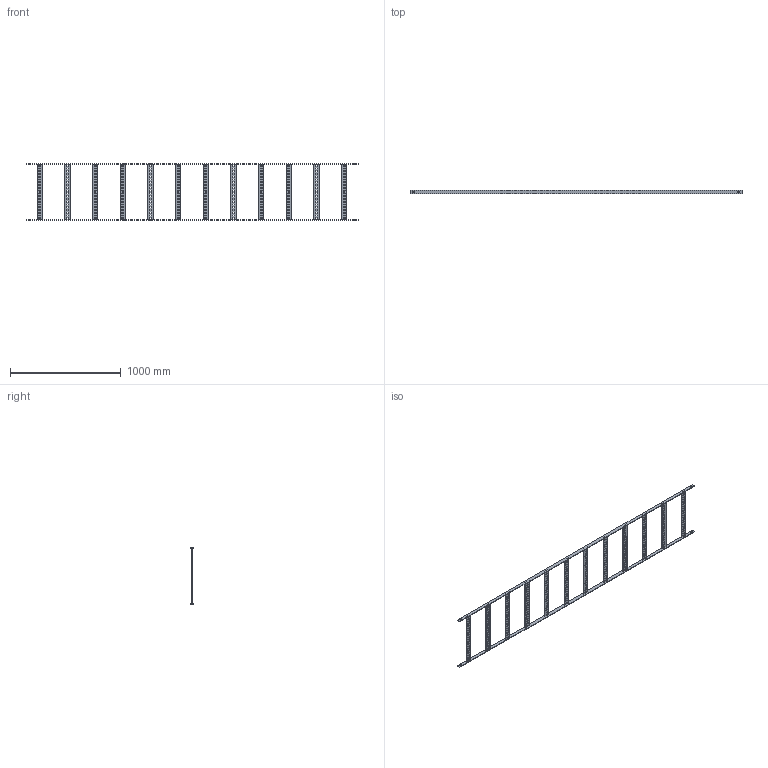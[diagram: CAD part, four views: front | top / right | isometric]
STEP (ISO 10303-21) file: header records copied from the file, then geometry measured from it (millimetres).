
FILE_DESCRIPTION(('Creo Elements/Direct Modeling STEP Export'),'2;1');
FILE_NAME('//pserver/office/EK/ME10-3D/3D-output/SKL 500F.stp','2020-03-10T 9:28:36',(''),(''),'PTC Creo Elements/Direct Modeling STEP processor for AP214 (Solid Model)','PTC Creo Elements/Direct Modeling 19.0C 15-Aug-2015 (C) Parametric Technology GmbH','');
FILE_SCHEMA(('AUTOMOTIVE_DESIGN { 1 0 10303 214 1 1 1 1 }'));
Length unit declared in the file: millimetre
Products named in the file (3): SKL_Holm-L3000; SKLSP_050B.011; SKL_500F
Assembly tree (14 placements, depth 2):
  SKL_500F
    SKLSP_050B.011  x12
    SKL_Holm-L3000  x2
Bounding box: 3000 x 30 x 510 mm (x, y, z)
Volume: 1971662.5 mm3; surface area: 1056768.6 mm2
Topology: 14 solids, 14 shells, 1060 faces, 3096 edges, 2064 vertices
Faces by surface type: plane 572, cylinder 488
Entity records: 3559 total; most frequent: DIRECTION 606, CARTESIAN_POINT 595, ORIENTED_EDGE 576, EDGE_CURVE 288, AXIS2_PLACEMENT_3D 203, VECTOR 200, LINE 200, VERTEX_POINT 192
